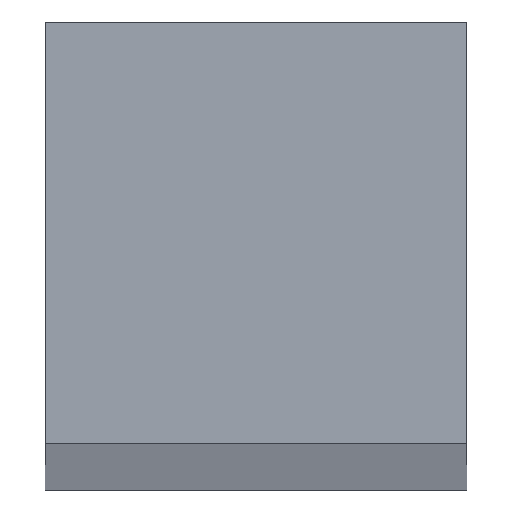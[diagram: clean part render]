
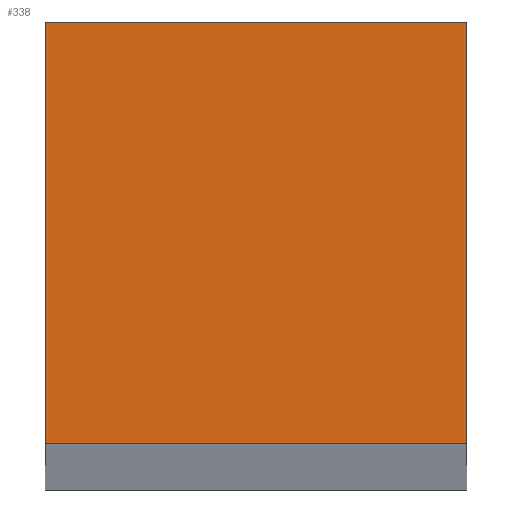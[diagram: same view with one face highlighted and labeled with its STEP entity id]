
A CAD part, top view. The second image highlights one B-rep face of the part: STEP entity #338.
In plain terms, the highlighted planar face has unit normal (0, 0, 1).
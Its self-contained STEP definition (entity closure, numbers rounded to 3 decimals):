
#24 = VERTEX_POINT('',#25);
#25 = CARTESIAN_POINT('',(0.,0.,1900.));
#32 = PLANE('',#33);
#33 = AXIS2_PLACEMENT_3D('',#34,#35,#36);
#34 = CARTESIAN_POINT('',(0.,0.,0.));
#35 = DIRECTION('',(1.,0.,0.));
#36 = DIRECTION('',(0.,0.,1.));
#44 = PLANE('',#45);
#45 = AXIS2_PLACEMENT_3D('',#46,#47,#48);
#46 = CARTESIAN_POINT('',(0.,0.,0.));
#47 = DIRECTION('',(0.,1.,0.));
#48 = DIRECTION('',(0.,0.,1.));
#85 = VERTEX_POINT('',#86);
#86 = CARTESIAN_POINT('',(0.,30.,1900.));
#100 = PLANE('',#101);
#101 = AXIS2_PLACEMENT_3D('',#102,#103,#104);
#102 = CARTESIAN_POINT('',(0.,30.,0.));
#103 = DIRECTION('',(0.,1.,0.));
#104 = DIRECTION('',(0.,0.,1.));
#112 = EDGE_CURVE('',#24,#85,#113,.T.);
#113 = SURFACE_CURVE('',#114,(#118,#125),.PCURVE_S1.);
#114 = LINE('',#115,#116);
#115 = CARTESIAN_POINT('',(0.,0.,1900.));
#116 = VECTOR('',#117,1.);
#117 = DIRECTION('',(0.,1.,0.));
#118 = PCURVE('',#32,#119);
#119 = DEFINITIONAL_REPRESENTATION('',(#120),#124);
#120 = LINE('',#121,#122);
#121 = CARTESIAN_POINT('',(1900.,0.));
#122 = VECTOR('',#123,1.);
#123 = DIRECTION('',(0.,-1.));
#124 = ( GEOMETRIC_REPRESENTATION_CONTEXT(2) 
PARAMETRIC_REPRESENTATION_CONTEXT() REPRESENTATION_CONTEXT('2D SPACE',''
  ) );
#125 = PCURVE('',#126,#131);
#126 = PLANE('',#127);
#127 = AXIS2_PLACEMENT_3D('',#128,#129,#130);
#128 = CARTESIAN_POINT('',(0.,0.,1900.));
#129 = DIRECTION('',(0.,0.,1.));
#130 = DIRECTION('',(1.,0.,0.));
#131 = DEFINITIONAL_REPRESENTATION('',(#132),#136);
#132 = LINE('',#133,#134);
#133 = CARTESIAN_POINT('',(0.,0.));
#134 = VECTOR('',#135,1.);
#135 = DIRECTION('',(0.,1.));
#136 = ( GEOMETRIC_REPRESENTATION_CONTEXT(2) 
PARAMETRIC_REPRESENTATION_CONTEXT() REPRESENTATION_CONTEXT('2D SPACE',''
  ) );
#144 = VERTEX_POINT('',#145);
#145 = CARTESIAN_POINT('',(30.,0.,1900.));
#152 = PLANE('',#153);
#153 = AXIS2_PLACEMENT_3D('',#154,#155,#156);
#154 = CARTESIAN_POINT('',(30.,0.,0.));
#155 = DIRECTION('',(1.,0.,0.));
#156 = DIRECTION('',(0.,0.,1.));
#195 = VERTEX_POINT('',#196);
#196 = CARTESIAN_POINT('',(30.,30.,1900.));
#217 = EDGE_CURVE('',#144,#195,#218,.T.);
#218 = SURFACE_CURVE('',#219,(#223,#230),.PCURVE_S1.);
#219 = LINE('',#220,#221);
#220 = CARTESIAN_POINT('',(30.,0.,1900.));
#221 = VECTOR('',#222,1.);
#222 = DIRECTION('',(0.,1.,0.));
#223 = PCURVE('',#152,#224);
#224 = DEFINITIONAL_REPRESENTATION('',(#225),#229);
#225 = LINE('',#226,#227);
#226 = CARTESIAN_POINT('',(1900.,0.));
#227 = VECTOR('',#228,1.);
#228 = DIRECTION('',(0.,-1.));
#229 = ( GEOMETRIC_REPRESENTATION_CONTEXT(2) 
PARAMETRIC_REPRESENTATION_CONTEXT() REPRESENTATION_CONTEXT('2D SPACE',''
  ) );
#230 = PCURVE('',#126,#231);
#231 = DEFINITIONAL_REPRESENTATION('',(#232),#236);
#232 = LINE('',#233,#234);
#233 = CARTESIAN_POINT('',(30.,0.));
#234 = VECTOR('',#235,1.);
#235 = DIRECTION('',(0.,1.));
#236 = ( GEOMETRIC_REPRESENTATION_CONTEXT(2) 
PARAMETRIC_REPRESENTATION_CONTEXT() REPRESENTATION_CONTEXT('2D SPACE',''
  ) );
#263 = EDGE_CURVE('',#24,#144,#264,.T.);
#264 = SURFACE_CURVE('',#265,(#269,#276),.PCURVE_S1.);
#265 = LINE('',#266,#267);
#266 = CARTESIAN_POINT('',(0.,0.,1900.));
#267 = VECTOR('',#268,1.);
#268 = DIRECTION('',(1.,0.,0.));
#269 = PCURVE('',#44,#270);
#270 = DEFINITIONAL_REPRESENTATION('',(#271),#275);
#271 = LINE('',#272,#273);
#272 = CARTESIAN_POINT('',(1900.,0.));
#273 = VECTOR('',#274,1.);
#274 = DIRECTION('',(0.,1.));
#275 = ( GEOMETRIC_REPRESENTATION_CONTEXT(2) 
PARAMETRIC_REPRESENTATION_CONTEXT() REPRESENTATION_CONTEXT('2D SPACE',''
  ) );
#276 = PCURVE('',#126,#277);
#277 = DEFINITIONAL_REPRESENTATION('',(#278),#282);
#278 = LINE('',#279,#280);
#279 = CARTESIAN_POINT('',(0.,0.));
#280 = VECTOR('',#281,1.);
#281 = DIRECTION('',(1.,0.));
#282 = ( GEOMETRIC_REPRESENTATION_CONTEXT(2) 
PARAMETRIC_REPRESENTATION_CONTEXT() REPRESENTATION_CONTEXT('2D SPACE',''
  ) );
#310 = EDGE_CURVE('',#85,#195,#311,.T.);
#311 = SURFACE_CURVE('',#312,(#316,#323),.PCURVE_S1.);
#312 = LINE('',#313,#314);
#313 = CARTESIAN_POINT('',(0.,30.,1900.));
#314 = VECTOR('',#315,1.);
#315 = DIRECTION('',(1.,0.,0.));
#316 = PCURVE('',#100,#317);
#317 = DEFINITIONAL_REPRESENTATION('',(#318),#322);
#318 = LINE('',#319,#320);
#319 = CARTESIAN_POINT('',(1900.,0.));
#320 = VECTOR('',#321,1.);
#321 = DIRECTION('',(0.,1.));
#322 = ( GEOMETRIC_REPRESENTATION_CONTEXT(2) 
PARAMETRIC_REPRESENTATION_CONTEXT() REPRESENTATION_CONTEXT('2D SPACE',''
  ) );
#323 = PCURVE('',#126,#324);
#324 = DEFINITIONAL_REPRESENTATION('',(#325),#329);
#325 = LINE('',#326,#327);
#326 = CARTESIAN_POINT('',(0.,30.));
#327 = VECTOR('',#328,1.);
#328 = DIRECTION('',(1.,0.));
#329 = ( GEOMETRIC_REPRESENTATION_CONTEXT(2) 
PARAMETRIC_REPRESENTATION_CONTEXT() REPRESENTATION_CONTEXT('2D SPACE',''
  ) );
#338 = ADVANCED_FACE('',(#339),#126,.T.);
#339 = FACE_BOUND('',#340,.T.);
#340 = EDGE_LOOP('',(#341,#342,#343,#344));
#341 = ORIENTED_EDGE('',*,*,#112,.F.);
#342 = ORIENTED_EDGE('',*,*,#263,.T.);
#343 = ORIENTED_EDGE('',*,*,#217,.T.);
#344 = ORIENTED_EDGE('',*,*,#310,.F.);
